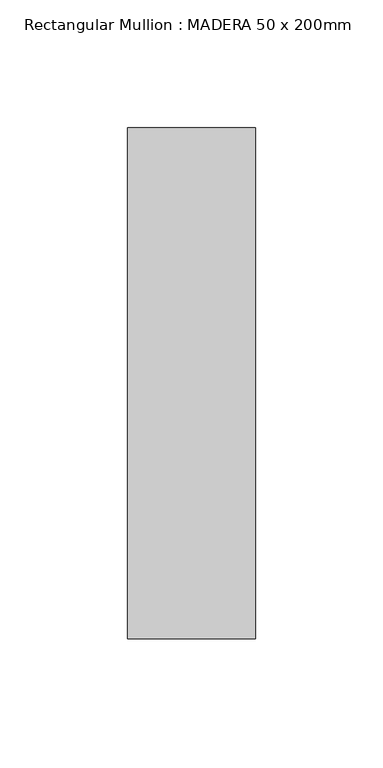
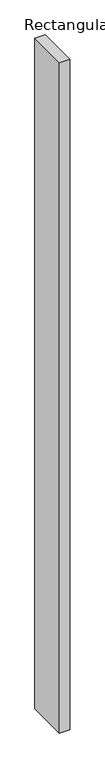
"""IFC4 building model written with IfcOpenShell, lengths in millimetres: member geometry, Rectangular Mullion : MADERA 50 x 200mm."""

from ifc_helpers import new_model, si_unit, frame, origin, place, context, project, spatial, polyline, outline, extrude, source, transform, mapped, element, save


def rectangular_mullion_madera_50_x_200mm_c4610814(model_context):
    return source(origin(), model_context, "Body", "SweptSolid", [
        extrude(outline(polyline([(25.0, 100.0), (25.0, -100.0), (-25.0, -100.0), (-25.0, 100.0), (25.0, 100.0)])), frame((0.0, 0.0, -3350.0), z_axis=(0.0, 0.0, 1.0), x_axis=(1.0, 0.0, 0.0)), (0.0, 0.0, 1.0), 3350.0),
    ])


if __name__ == "__main__":
    model = new_model("IFC4")
    model_context = context("Model", 3, world=origin())
    ifc_project = project(units=[si_unit("LENGTHUNIT", "METRE", prefix="MILLI")], contexts=[model_context])
    site = spatial("IfcSite", under=ifc_project)
    building = spatial("IfcBuilding", under=site)
    placement = place(None, origin())
    rectangular_mullion_madera_50_x_200mm_shape = rectangular_mullion_madera_50_x_200mm_c4610814(model_context)
    element("IfcMember", 1, ObjectType="Rectangular Mullion : MADERA 50 x 200mm", at=placement, inside=building, context=model_context, shape_type="MappedRepresentation", body=[
        mapped(rectangular_mullion_madera_50_x_200mm_shape, transform((0.0, 0.0, 0.0), x_axis=(1.0, 0.0, 0.0), y_axis=(0.0, 1.0, 0.0), z_axis=(0.0, 0.0, 1.0))),
    ])
    save(model, "model.ifc")
